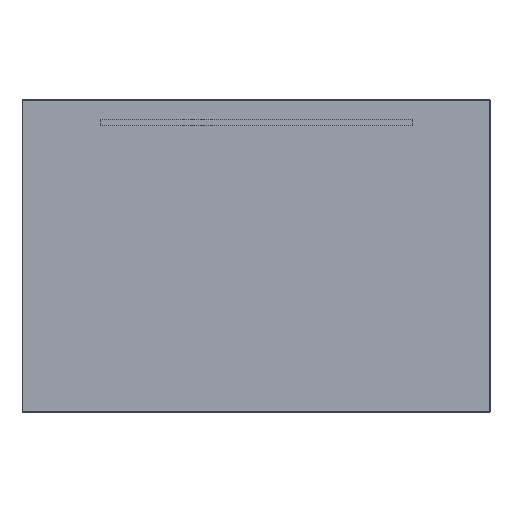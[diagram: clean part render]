
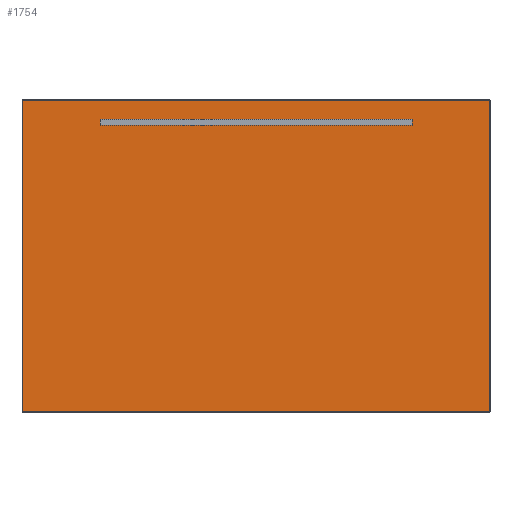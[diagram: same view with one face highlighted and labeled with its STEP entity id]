
A CAD part, top view. The second image highlights one B-rep face of the part: STEP entity #1754.
In plain terms, the highlighted planar face has unit normal (0, 0, 1).
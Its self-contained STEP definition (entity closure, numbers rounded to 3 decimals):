
#35 = DIRECTION ( 'NONE',  ( 0., 1., 0. ) ) ;
#46 = VERTEX_POINT ( 'NONE', #866 ) ;
#73 = VECTOR ( 'NONE', #1821, 1000. ) ;
#79 = ORIENTED_EDGE ( 'NONE', *, *, #1565, .T. ) ;
#112 = VECTOR ( 'NONE', #35, 1000. ) ;
#142 = DIRECTION ( 'NONE',  ( 0., 1., 0. ) ) ;
#198 = EDGE_CURVE ( 'NONE', #1105, #756, #1808, .T. ) ;
#201 = ORIENTED_EDGE ( 'NONE', *, *, #299, .F. ) ;
#222 = CARTESIAN_POINT ( 'NONE',  ( 400., 350., 4. ) ) ;
#230 = LINE ( 'NONE', #789, #1306 ) ;
#250 = VERTEX_POINT ( 'NONE', #688 ) ;
#299 = EDGE_CURVE ( 'NONE', #1869, #250, #230, .T. ) ;
#300 = ORIENTED_EDGE ( 'NONE', *, *, #791, .F. ) ;
#318 = DIRECTION ( 'NONE',  ( 1., 0., 0. ) ) ;
#328 = CARTESIAN_POINT ( 'NONE',  ( -599.5, 399.5, 4. ) ) ;
#354 = LINE ( 'NONE', #541, #73 ) ;
#392 = PLANE ( 'NONE',  #464 ) ;
#401 = DIRECTION ( 'NONE',  ( -1., 0., 0. ) ) ;
#410 = CARTESIAN_POINT ( 'NONE',  ( -599.5, -399.5, 4. ) ) ;
#456 = ORIENTED_EDGE ( 'NONE', *, *, #1372, .T. ) ;
#464 = AXIS2_PLACEMENT_3D ( 'NONE', #961, #663, #401 ) ;
#487 = CARTESIAN_POINT ( 'NONE',  ( -400., 335., 4. ) ) ;
#518 = DIRECTION ( 'NONE',  ( 0., -1., 0. ) ) ;
#541 = CARTESIAN_POINT ( 'NONE',  ( -599.5, 0., 4. ) ) ;
#552 = VECTOR ( 'NONE', #318, 1000. ) ;
#561 = CARTESIAN_POINT ( 'NONE',  ( 0., 399.5, 4. ) ) ;
#641 = ORIENTED_EDGE ( 'NONE', *, *, #1649, .F. ) ;
#663 = DIRECTION ( 'NONE',  ( 0., 0., -1. ) ) ;
#683 = EDGE_LOOP ( 'NONE', ( #79, #1626, #1164, #456 ) ) ;
#688 = CARTESIAN_POINT ( 'NONE',  ( -400., 335., 4. ) ) ;
#756 = VERTEX_POINT ( 'NONE', #328 ) ;
#779 = VERTEX_POINT ( 'NONE', #898 ) ;
#789 = CARTESIAN_POINT ( 'NONE',  ( -400., 350., 4. ) ) ;
#791 = EDGE_CURVE ( 'NONE', #250, #779, #1748, .T. ) ;
#802 = CARTESIAN_POINT ( 'NONE',  ( -400., 350., 4. ) ) ;
#825 = VECTOR ( 'NONE', #1562, 1000. ) ;
#844 = FACE_BOUND ( 'NONE', #1429, .T. ) ;
#866 = CARTESIAN_POINT ( 'NONE',  ( 599.5, -399.5, 4. ) ) ;
#898 = CARTESIAN_POINT ( 'NONE',  ( 400., 335., 4. ) ) ;
#955 = VECTOR ( 'NONE', #1249, 1000. ) ;
#956 = CARTESIAN_POINT ( 'NONE',  ( 0., -399.5, 4. ) ) ;
#961 = CARTESIAN_POINT ( 'NONE',  ( 0., 0., 4. ) ) ;
#992 = VERTEX_POINT ( 'NONE', #410 ) ;
#1027 = FACE_OUTER_BOUND ( 'NONE', #683, .T. ) ;
#1047 = ORIENTED_EDGE ( 'NONE', *, *, #1798, .F. ) ;
#1101 = VECTOR ( 'NONE', #142, 1000. ) ;
#1105 = VERTEX_POINT ( 'NONE', #1255 ) ;
#1127 = LINE ( 'NONE', #1485, #112 ) ;
#1164 = ORIENTED_EDGE ( 'NONE', *, *, #1356, .T. ) ;
#1249 = DIRECTION ( 'NONE',  ( -1., 0., 0. ) ) ;
#1255 = CARTESIAN_POINT ( 'NONE',  ( 599.5, 399.5, 4. ) ) ;
#1262 = LINE ( 'NONE', #1880, #1101 ) ;
#1297 = VERTEX_POINT ( 'NONE', #222 ) ;
#1306 = VECTOR ( 'NONE', #518, 1000. ) ;
#1356 = EDGE_CURVE ( 'NONE', #756, #992, #354, .T. ) ;
#1372 = EDGE_CURVE ( 'NONE', #992, #46, #1516, .T. ) ;
#1429 = EDGE_LOOP ( 'NONE', ( #300, #201, #1047, #641 ) ) ;
#1485 = CARTESIAN_POINT ( 'NONE',  ( 400., 350., 4. ) ) ;
#1516 = LINE ( 'NONE', #956, #825 ) ;
#1562 = DIRECTION ( 'NONE',  ( 1., 0., 0. ) ) ;
#1565 = EDGE_CURVE ( 'NONE', #46, #1105, #1262, .T. ) ;
#1572 = CARTESIAN_POINT ( 'NONE',  ( -400., 350., 4. ) ) ;
#1587 = LINE ( 'NONE', #802, #955 ) ;
#1626 = ORIENTED_EDGE ( 'NONE', *, *, #198, .T. ) ;
#1649 = EDGE_CURVE ( 'NONE', #779, #1297, #1127, .T. ) ;
#1697 = VECTOR ( 'NONE', #1856, 1000. ) ;
#1748 = LINE ( 'NONE', #487, #552 ) ;
#1754 = ADVANCED_FACE ( 'NONE', ( #844, #1027 ), #392, .F. ) ;
#1798 = EDGE_CURVE ( 'NONE', #1297, #1869, #1587, .T. ) ;
#1808 = LINE ( 'NONE', #561, #1697 ) ;
#1821 = DIRECTION ( 'NONE',  ( 0., -1., 0. ) ) ;
#1856 = DIRECTION ( 'NONE',  ( -1., 0., 0. ) ) ;
#1869 = VERTEX_POINT ( 'NONE', #1572 ) ;
#1880 = CARTESIAN_POINT ( 'NONE',  ( 599.5, 0., 4. ) ) ;
